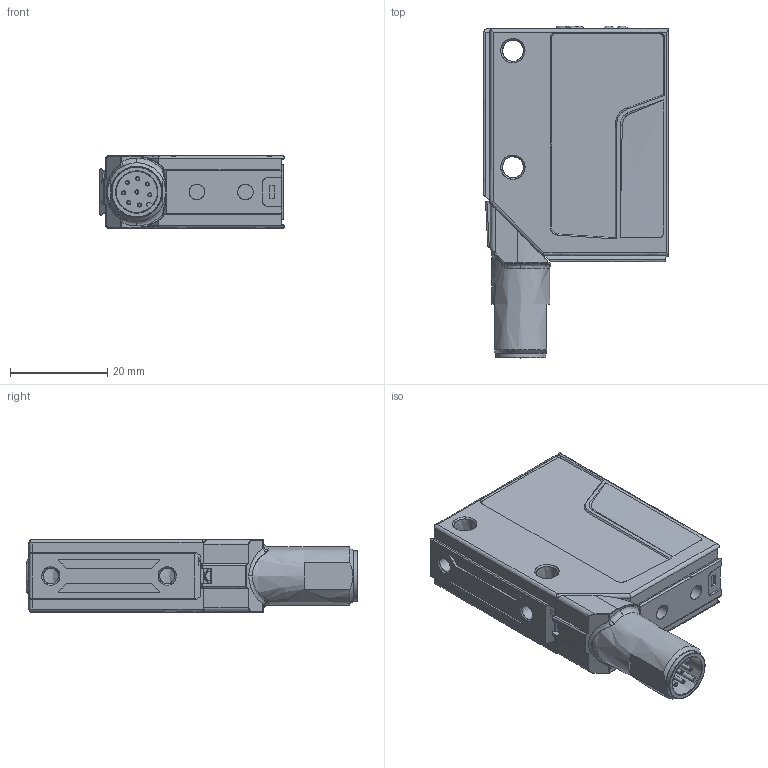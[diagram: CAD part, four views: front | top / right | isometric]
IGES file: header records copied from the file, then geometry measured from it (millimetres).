
Global section: file name: H:\klehmann\3DCAD_ODSL8_Stecker_unten.igs; native system: NX V11.0; preprocessor: SIEMENS PLM Software NX 11.0; date: 20190222.153417; units: millimetre
Bounding box: 38 x 68.41 x 15 mm (x, y, z)
Surface area: 8976.7 mm2 (no closed solid volume)
Topology: 0 solids, 0 shells, 352 faces, 2276 edges, 2230 vertices
Faces by surface type: bspline 352
